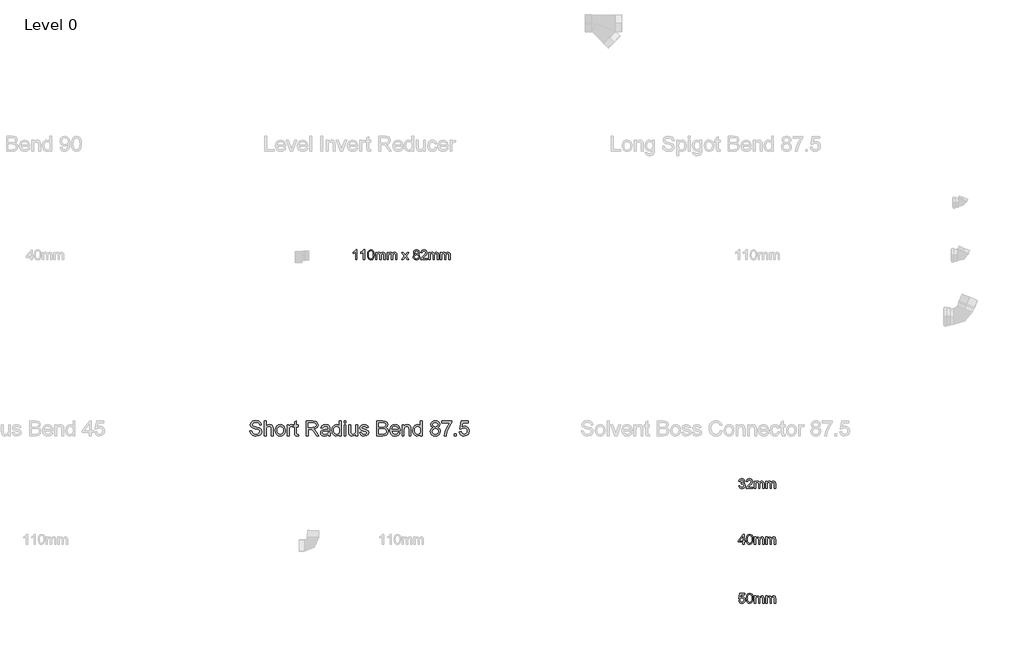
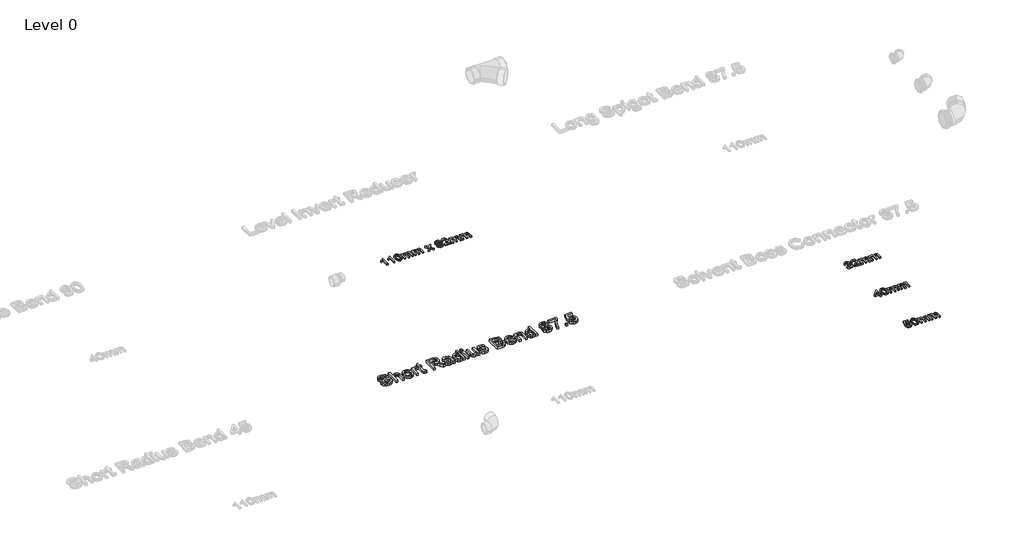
# One storey, part 3 of 28: 5 proxies.
"""IFC4 building model written with IfcOpenShell, lengths in millimetres."""

from ifc_helpers import new_model, si_unit, origin, origin_with_axes, place, context, project, spatial, polyline, outline, extrude, element, save

model = new_model("IFC4")

# Units and contexts
model_context = context("Model", 3, world=origin())
ifc_project = project(units=[si_unit("LENGTHUNIT", "METRE", prefix="MILLI")], contexts=[model_context])

# Site, building, storey
site = spatial("IfcSite", under=ifc_project)
building = spatial("IfcBuilding", under=site)
storey = spatial("IfcBuildingStorey", under=building, Name="Level 0", Elevation=0.0)

# Proxies
placement = place(None, origin())
element("IfcBuildingElementProxy", 1, Name="100mm Arial", ObjectType="100mm Arial", at=placement, inside=storey, context=model_context, shape_type="SweptSolid", body=[
    extrude(outline(polyline([(-17554.0370111, -162.2832696), (-17566.3447034, -162.2832696), (-17566.3447034, -85.5525004), (-17578.0033572, -93.8577889), (-17590.960088, -100.0717312), (-17590.960088, -88.4371158), (-17572.9192226, -76.9226927), (-17561.9697034, -63.8217312), (-17554.0370111, -63.8217312), (-17554.0370111, -162.2832696)])), origin_with_axes(), (0.0, 0.0, 1.0), 15.0),
    extrude(outline(polyline([(-17478.6523957, -162.2832696), (-17490.960088, -162.2832696), (-17490.960088, -85.5525004), (-17502.6187418, -93.8577889), (-17515.5754726, -100.0717312), (-17515.5754726, -88.4371158), (-17497.5346072, -76.9226927), (-17486.585088, -63.8217312), (-17478.6523957, -63.8217312), (-17478.6523957, -162.2832696)])), origin_with_axes(), (0.0, 0.0, 1.0), 15.0),
    extrude(outline(polyline([(-17449.4216264, -113.8457696), (-17445.803838, -85.5164427), (-17435.0586457, -69.1823081), (-17417.1139341, -63.8217312), (-17402.7389341, -66.9948081), (-17392.8110495, -76.1414427), (-17387.0418188, -90.7087504), (-17384.8062418, -113.8457696), (-17388.3879726, -142.0549042), (-17399.0971072, -158.4250965), (-17417.1139341, -163.8217312), (-17429.9023957, -161.4779812), (-17439.6139341, -154.4467312), (-17446.9697034, -137.7940869), (-17449.4216264, -113.8457696)]), holes=[polyline([(-17437.1139341, -113.8217312), (-17435.6716264, -133.1817071), (-17431.3447034, -144.386635), (-17424.9023957, -149.7321879), (-17417.1139341, -151.5140389), (-17409.3254726, -149.7261783), (-17402.8831649, -144.3625965), (-17398.5562418, -133.151659), (-17397.1139341, -113.8217312), (-17398.5081649, -94.8974523), (-17402.6908572, -83.605385), (-17409.1211457, -77.9984139), (-17417.2581649, -76.1294235), (-17424.9624918, -77.7760581), (-17431.1523957, -82.7159619), (-17435.6235495, -94.7111542), (-17437.1139341, -113.8217312)])]), origin_with_axes(), (0.0, 0.0, 1.0), 15.0),
    extrude(outline(polyline([(-17370.960088, -162.2832696), (-17370.960088, -89.9755773), (-17358.6523957, -89.9755773), (-17358.6523957, -101.8746158), (-17350.1908572, -92.1270196), (-17338.147588, -88.4371158), (-17325.8158572, -92.199135), (-17319.0370111, -102.7400004), (-17309.4336457, -92.0128369), (-17297.3062418, -88.4371158), (-17288.0544389, -89.9244956), (-17281.2124918, -94.386635), (-17276.9847274, -101.9437264), (-17275.5754726, -112.7159619), (-17275.5754726, -162.2832696), (-17287.8831649, -162.2832696), (-17287.8831649, -118.0044235), (-17289.0249918, -107.7279812), (-17293.1596072, -102.667885), (-17300.1908572, -100.7448081), (-17312.2942226, -105.6726927), (-17317.1139341, -121.4659619), (-17317.1139341, -162.2832696), (-17329.4216264, -162.2832696), (-17329.4216264, -116.6342312), (-17332.2701841, -104.7111542), (-17341.6091264, -100.7448081), (-17350.7197034, -103.3890389), (-17356.7773957, -111.1294235), (-17358.6523957, -125.8169235), (-17358.6523957, -162.2832696), (-17370.960088, -162.2832696)])), origin_with_axes(), (0.0, 0.0, 1.0), 15.0),
    extrude(outline(polyline([(-17257.1139341, -162.2832696), (-17257.1139341, -89.9755773), (-17244.8062418, -89.9755773), (-17244.8062418, -101.8746158), (-17236.3447034, -92.1270196), (-17224.3014341, -88.4371158), (-17211.9697034, -92.199135), (-17205.1908572, -102.7400004), (-17195.5874918, -92.0128369), (-17183.460088, -88.4371158), (-17174.2082851, -89.9244956), (-17167.366338, -94.386635), (-17163.1385736, -101.9437264), (-17161.7293188, -112.7159619), (-17161.7293188, -162.2832696), (-17174.0370111, -162.2832696), (-17174.0370111, -118.0044235), (-17175.178838, -107.7279812), (-17179.3134534, -102.667885), (-17186.3447034, -100.7448081), (-17198.4480688, -105.6726927), (-17203.2677803, -121.4659619), (-17203.2677803, -162.2832696), (-17215.5754726, -162.2832696), (-17215.5754726, -116.6342312), (-17218.4240303, -104.7111542), (-17227.7629726, -100.7448081), (-17236.8735495, -103.3890389), (-17242.9312418, -111.1294235), (-17244.8062418, -125.8169235), (-17244.8062418, -162.2832696), (-17257.1139341, -162.2832696)])), origin_with_axes(), (0.0, 0.0, 1.0), 15.0),
    extrude(outline(polyline([(-17112.4985495, -162.2832696), (-17086.2004726, -125.9371158), (-17110.960088, -89.9755773), (-17096.1523957, -89.9755773), (-17084.2052803, -107.2832696), (-17078.6283572, -115.4563465), (-17073.7966264, -108.7736542), (-17060.1908572, -89.9755773), (-17045.3831649, -89.9755773), (-17071.3927803, -125.9371158), (-17046.3447034, -162.2832696), (-17061.1523957, -162.2832696), (-17076.2245111, -140.4323081), (-17078.9889341, -136.4419235), (-17097.6908572, -162.2832696), (-17112.4985495, -162.2832696)])), origin_with_axes(), (0.0, 0.0, 1.0), 15.0),
    extrude(outline(polyline([(-16982.2581649, -108.0525004), (-16993.4721072, -100.4082696), (-16997.1139341, -88.5092312), (-16995.1307611, -78.8878369), (-16989.1812418, -70.9371158), (-16979.9324438, -65.6005773), (-16968.0514341, -63.8217312), (-16956.0983091, -65.6426446), (-16946.7293188, -71.105385), (-16940.6716264, -79.1823081), (-16938.6523957, -88.8457696), (-16942.2461457, -100.4443273), (-16953.147588, -108.0525004), (-16940.0586457, -117.7039427), (-16935.5754726, -133.6294235), (-16937.7990303, -145.3962504), (-16944.4697034, -155.1198081), (-16954.7701841, -161.6462504), (-16967.8831649, -163.8217312), (-16980.9961457, -161.637236), (-16991.2966264, -155.0837504), (-16997.9672995, -145.2670437), (-17000.1908572, -133.292885), (-16995.5273957, -116.9948081), (-16982.2581649, -108.0525004)]), holes=[polyline([(-16987.8831649, -132.8601927), (-16985.8278764, -142.1270196), (-16978.5562418, -149.0621158), (-16967.7870111, -151.5140389), (-16953.1235495, -146.3577889), (-16947.8831649, -133.2448081), (-16953.2918188, -119.8794235), (-16959.7221072, -115.9130773), (-16968.1956649, -114.5909619), (-16982.678838, -119.8073081), (-16987.8831649, -132.8601927)]), polyline([(-16984.8062418, -88.8698081), (-16980.4432611, -98.5332696), (-16967.7389341, -102.2832696), (-16955.2870111, -98.5573081), (-16950.960088, -89.4226927), (-16955.4312418, -79.9635581), (-16967.8831649, -76.1294235), (-16980.3711457, -79.8794235), (-16984.8062418, -88.8698081)])]), origin_with_axes(), (0.0, 0.0, 1.0), 15.0),
    extrude(outline(polyline([(-16861.7293188, -149.9755773), (-16861.7293188, -162.2832696), (-16926.3447034, -162.2832696), (-16925.022588, -153.7976927), (-16917.5466264, -140.7327889), (-16902.1379726, -126.4659619), (-16880.8879726, -105.9611542), (-16875.5754726, -92.0188465), (-16880.5874918, -80.7327889), (-16893.6764341, -76.1294235), (-16907.3182611, -80.6246158), (-16912.4985495, -93.0525004), (-16924.8062418, -91.5140389), (-16921.8224678, -79.6089908), (-16915.3711457, -70.9130773), (-16905.7888139, -65.5945677), (-16893.4120111, -63.8217312), (-16880.9450639, -65.792885), (-16871.3807611, -71.7063465), (-16865.2960255, -80.5404812), (-16863.2677803, -91.2736542), (-16865.4552803, -102.9443273), (-16872.7269149, -115.011635), (-16890.3591264, -131.8746158), (-16904.5177803, -143.7135581), (-16910.0706649, -149.9755773), (-16861.7293188, -149.9755773)])), origin_with_axes(), (0.0, 0.0, 1.0), 15.0),
    extrude(outline(polyline([(-16846.3447034, -162.2832696), (-16846.3447034, -89.9755773), (-16834.0370111, -89.9755773), (-16834.0370111, -101.8746158), (-16825.5754726, -92.1270196), (-16813.5322034, -88.4371158), (-16801.2004726, -92.199135), (-16794.4216264, -102.7400004), (-16784.8182611, -92.0128369), (-16772.6908572, -88.4371158), (-16763.4390543, -89.9244956), (-16756.5971072, -94.386635), (-16752.3693428, -101.9437264), (-16750.960088, -112.7159619), (-16750.960088, -162.2832696), (-16763.2677803, -162.2832696), (-16763.2677803, -118.0044235), (-16764.4096072, -107.7279812), (-16768.5442226, -102.667885), (-16775.5754726, -100.7448081), (-16787.678838, -105.6726927), (-16792.4985495, -121.4659619), (-16792.4985495, -162.2832696), (-16804.8062418, -162.2832696), (-16804.8062418, -116.6342312), (-16807.6547995, -104.7111542), (-16816.9937418, -100.7448081), (-16826.1043188, -103.3890389), (-16832.1620111, -111.1294235), (-16834.0370111, -125.8169235), (-16834.0370111, -162.2832696), (-16846.3447034, -162.2832696)])), origin_with_axes(), (0.0, 0.0, 1.0), 15.0),
    extrude(outline(polyline([(-16732.4985495, -162.2832696), (-16732.4985495, -89.9755773), (-16720.1908572, -89.9755773), (-16720.1908572, -101.8746158), (-16711.7293188, -92.1270196), (-16699.6860495, -88.4371158), (-16687.3543188, -92.199135), (-16680.5754726, -102.7400004), (-16670.9721072, -92.0128369), (-16658.8447034, -88.4371158), (-16649.5929005, -89.9244956), (-16642.7509534, -94.386635), (-16638.5231889, -101.9437264), (-16637.1139341, -112.7159619), (-16637.1139341, -162.2832696), (-16649.4216264, -162.2832696), (-16649.4216264, -118.0044235), (-16650.5634534, -107.7279812), (-16654.6980688, -102.667885), (-16661.7293188, -100.7448081), (-16673.8326841, -105.6726927), (-16678.6523957, -121.4659619), (-16678.6523957, -162.2832696), (-16690.960088, -162.2832696), (-16690.960088, -116.6342312), (-16693.8086457, -104.7111542), (-16703.147588, -100.7448081), (-16712.2581649, -103.3890389), (-16718.3158572, -111.1294235), (-16720.1908572, -125.8169235), (-16720.1908572, -162.2832696), (-16732.4985495, -162.2832696)])), origin_with_axes(), (0.0, 0.0, 1.0), 15.0),
])
element("IfcBuildingElementProxy", 2, Name="100mm Arial", ObjectType="100mm Arial", at=placement, inside=storey, context=model_context, shape_type="SweptSolid", body=[
    extrude(outline(polyline([(-13800.1908572, -2387.195749), (-13787.8831649, -2385.6572875), (-13781.0922995, -2398.6140183), (-13768.3879726, -2402.5803644), (-13759.9504726, -2401.2161817), (-13753.4360495, -2397.1236337), (-13747.8831649, -2383.6140183), (-13753.3879726, -2370.8856529), (-13767.3783572, -2365.8495952), (-13776.0081649, -2367.195749), (-13774.6379726, -2354.8880567), (-13772.6668188, -2355.0322875), (-13758.7004726, -2351.4986337), (-13754.0490303, -2347.0154606), (-13752.4985495, -2340.633249), (-13756.9937418, -2331.0058452), (-13768.5802803, -2327.195749), (-13780.3110495, -2331.0419029), (-13786.3447034, -2342.5803644), (-13798.6523957, -2341.0419029), (-13795.0285976, -2329.9902202), (-13788.5802803, -2321.7390183), (-13779.7581649, -2316.6007971), (-13769.0129726, -2314.8880567), (-13754.1692226, -2318.2654606), (-13743.7846072, -2327.4962298), (-13740.1908572, -2339.9120952), (-13743.6043188, -2351.258249), (-13753.7004726, -2359.4072875), (-13740.2870111, -2367.820749), (-13735.5754726, -2383.8303644), (-13737.9312418, -2395.8255567), (-13744.9985495, -2405.8495952), (-13755.6656168, -2412.6284413), (-13768.8206649, -2414.8880567), (-13780.7197034, -2412.9589702), (-13790.4072034, -2407.1717106), (-13797.1439822, -2398.3195471), (-13800.1908572, -2387.195749)])), origin_with_axes(), (0.0, 0.0, 1.0), 15.0),
    extrude(outline(polyline([(-13661.7293188, -2401.0419029), (-13661.7293188, -2413.3495952), (-13726.3447034, -2413.3495952), (-13725.022588, -2404.8640183), (-13717.5466264, -2391.7991144), (-13702.1379726, -2377.5322875), (-13680.8879726, -2357.0274798), (-13675.5754726, -2343.0851721), (-13680.5874918, -2331.7991144), (-13693.6764341, -2327.195749), (-13707.3182611, -2331.6909413), (-13712.4985495, -2344.118826), (-13724.8062418, -2342.5803644), (-13721.8224678, -2330.6753163), (-13715.3711457, -2321.9794029), (-13705.7888139, -2316.6608933), (-13693.4120111, -2314.8880567), (-13680.9450639, -2316.8592106), (-13671.3807611, -2322.7726721), (-13665.2960255, -2331.6068067), (-13663.2677803, -2342.3399798), (-13665.4552803, -2354.0106529), (-13672.7269149, -2366.0779606), (-13690.3591264, -2382.9409413), (-13704.5177803, -2394.7798837), (-13710.0706649, -2401.0419029), (-13661.7293188, -2401.0419029)])), origin_with_axes(), (0.0, 0.0, 1.0), 15.0),
    extrude(outline(polyline([(-13646.3447034, -2413.3495952), (-13646.3447034, -2341.0419029), (-13634.0370111, -2341.0419029), (-13634.0370111, -2352.9409413), (-13625.5754726, -2343.1933452), (-13613.5322034, -2339.5034413), (-13601.2004726, -2343.2654606), (-13594.4216264, -2353.806326), (-13584.8182611, -2343.0791625), (-13572.6908572, -2339.5034413), (-13563.4390543, -2340.9908212), (-13556.5971072, -2345.4529606), (-13552.3693428, -2353.0100519), (-13550.960088, -2363.7822875), (-13550.960088, -2413.3495952), (-13563.2677803, -2413.3495952), (-13563.2677803, -2369.070749), (-13564.4096072, -2358.7943067), (-13568.5442226, -2353.7342106), (-13575.5754726, -2351.8111337), (-13587.678838, -2356.7390183), (-13592.4985495, -2372.5322875), (-13592.4985495, -2413.3495952), (-13604.8062418, -2413.3495952), (-13604.8062418, -2367.7005567), (-13607.6547995, -2355.7774798), (-13616.9937418, -2351.8111337), (-13626.1043188, -2354.4553644), (-13632.1620111, -2362.195749), (-13634.0370111, -2376.883249), (-13634.0370111, -2413.3495952), (-13646.3447034, -2413.3495952)])), origin_with_axes(), (0.0, 0.0, 1.0), 15.0),
    extrude(outline(polyline([(-13532.4985495, -2413.3495952), (-13532.4985495, -2341.0419029), (-13520.1908572, -2341.0419029), (-13520.1908572, -2352.9409413), (-13511.7293188, -2343.1933452), (-13499.6860495, -2339.5034413), (-13487.3543188, -2343.2654606), (-13480.5754726, -2353.806326), (-13470.9721072, -2343.0791625), (-13458.8447034, -2339.5034413), (-13449.5929005, -2340.9908212), (-13442.7509534, -2345.4529606), (-13438.5231889, -2353.0100519), (-13437.1139341, -2363.7822875), (-13437.1139341, -2413.3495952), (-13449.4216264, -2413.3495952), (-13449.4216264, -2369.070749), (-13450.5634534, -2358.7943067), (-13454.6980688, -2353.7342106), (-13461.7293188, -2351.8111337), (-13473.8326841, -2356.7390183), (-13478.6523957, -2372.5322875), (-13478.6523957, -2413.3495952), (-13490.960088, -2413.3495952), (-13490.960088, -2367.7005567), (-13493.8086457, -2355.7774798), (-13503.147588, -2351.8111337), (-13512.2581649, -2354.4553644), (-13518.3158572, -2362.195749), (-13520.1908572, -2376.883249), (-13520.1908572, -2413.3495952), (-13532.4985495, -2413.3495952)])), origin_with_axes(), (0.0, 0.0, 1.0), 15.0),
])
element("IfcBuildingElementProxy", 3, Name="100mm Arial", ObjectType="100mm Arial", at=placement, inside=storey, context=model_context, shape_type="SweptSolid", body=[
    extrude(outline(polyline([(-13760.1908572, -2962.2832696), (-13760.1908572, -2939.2063465), (-13804.8062418, -2939.2063465), (-13804.8062418, -2926.8986542), (-13757.1139341, -2865.3601927), (-13747.8831649, -2865.3601927), (-13747.8831649, -2926.8986542), (-13735.5754726, -2926.8986542), (-13735.5754726, -2939.2063465), (-13747.8831649, -2939.2063465), (-13747.8831649, -2962.2832696), (-13760.1908572, -2962.2832696)]), holes=[polyline([(-13760.1908572, -2926.8986542), (-13760.1908572, -2888.8698081), (-13789.6620111, -2926.8986542), (-13760.1908572, -2926.8986542)])]), origin_with_axes(), (0.0, 0.0, 1.0), 15.0),
    extrude(outline(polyline([(-13724.8062418, -2913.8457696), (-13721.1884534, -2885.5164427), (-13710.4432611, -2869.1823081), (-13692.4985495, -2863.8217312), (-13678.1235495, -2866.9948081), (-13668.1956649, -2876.1414427), (-13662.4264341, -2890.7087504), (-13660.1908572, -2913.8457696), (-13663.772588, -2942.0549042), (-13674.4817226, -2958.4250965), (-13692.4985495, -2963.8217312), (-13705.2870111, -2961.4779812), (-13714.9985495, -2954.4467312), (-13722.3543188, -2937.7940869), (-13724.8062418, -2913.8457696)]), holes=[polyline([(-13712.4985495, -2913.8217312), (-13711.0562418, -2933.1817071), (-13706.7293188, -2944.386635), (-13700.2870111, -2949.7321879), (-13692.4985495, -2951.5140389), (-13684.710088, -2949.7261783), (-13678.2677803, -2944.3625965), (-13673.9408572, -2933.151659), (-13672.4985495, -2913.8217312), (-13673.8927803, -2894.8974523), (-13678.0754726, -2883.605385), (-13684.5057611, -2877.9984139), (-13692.6427803, -2876.1294235), (-13700.3471072, -2877.7760581), (-13706.5370111, -2882.7159619), (-13711.0081649, -2894.7111542), (-13712.4985495, -2913.8217312)])]), origin_with_axes(), (0.0, 0.0, 1.0), 15.0),
    extrude(outline(polyline([(-13646.3447034, -2962.2832696), (-13646.3447034, -2889.9755773), (-13634.0370111, -2889.9755773), (-13634.0370111, -2901.8746158), (-13625.5754726, -2892.1270196), (-13613.5322034, -2888.4371158), (-13601.2004726, -2892.199135), (-13594.4216264, -2902.7400004), (-13584.8182611, -2892.0128369), (-13572.6908572, -2888.4371158), (-13563.4390543, -2889.9244956), (-13556.5971072, -2894.386635), (-13552.3693428, -2901.9437264), (-13550.960088, -2912.7159619), (-13550.960088, -2962.2832696), (-13563.2677803, -2962.2832696), (-13563.2677803, -2918.0044235), (-13564.4096072, -2907.7279812), (-13568.5442226, -2902.667885), (-13575.5754726, -2900.7448081), (-13587.678838, -2905.6726927), (-13592.4985495, -2921.4659619), (-13592.4985495, -2962.2832696), (-13604.8062418, -2962.2832696), (-13604.8062418, -2916.6342312), (-13607.6547995, -2904.7111542), (-13616.9937418, -2900.7448081), (-13626.1043188, -2903.3890389), (-13632.1620111, -2911.1294235), (-13634.0370111, -2925.8169235), (-13634.0370111, -2962.2832696), (-13646.3447034, -2962.2832696)])), origin_with_axes(), (0.0, 0.0, 1.0), 15.0),
    extrude(outline(polyline([(-13532.4985495, -2962.2832696), (-13532.4985495, -2889.9755773), (-13520.1908572, -2889.9755773), (-13520.1908572, -2901.8746158), (-13511.7293188, -2892.1270196), (-13499.6860495, -2888.4371158), (-13487.3543188, -2892.199135), (-13480.5754726, -2902.7400004), (-13470.9721072, -2892.0128369), (-13458.8447034, -2888.4371158), (-13449.5929005, -2889.9244956), (-13442.7509534, -2894.386635), (-13438.5231889, -2901.9437264), (-13437.1139341, -2912.7159619), (-13437.1139341, -2962.2832696), (-13449.4216264, -2962.2832696), (-13449.4216264, -2918.0044235), (-13450.5634534, -2907.7279812), (-13454.6980688, -2902.667885), (-13461.7293188, -2900.7448081), (-13473.8326841, -2905.6726927), (-13478.6523957, -2921.4659619), (-13478.6523957, -2962.2832696), (-13490.960088, -2962.2832696), (-13490.960088, -2916.6342312), (-13493.8086457, -2904.7111542), (-13503.147588, -2900.7448081), (-13512.2581649, -2903.3890389), (-13518.3158572, -2911.1294235), (-13520.1908572, -2925.8169235), (-13520.1908572, -2962.2832696), (-13532.4985495, -2962.2832696)])), origin_with_axes(), (0.0, 0.0, 1.0), 15.0),
])
element("IfcBuildingElementProxy", 4, Name="100mm Arial", ObjectType="100mm Arial", at=placement, inside=storey, context=model_context, shape_type="SweptSolid", body=[
    extrude(outline(polyline([(-13800.1908572, -3516.1294235), (-13787.8831649, -3514.5909619), (-13781.6812418, -3527.2712504), (-13768.8206649, -3531.5140389), (-13759.9985495, -3530.0386783), (-13753.3879726, -3525.6125965), (-13749.2593668, -3518.746611), (-13747.8831649, -3509.9515389), (-13753.0394149, -3495.3361542), (-13759.5147755, -3491.3157215), (-13768.6283572, -3489.9755773), (-13779.4336457, -3492.1150004), (-13786.3447034, -3497.667885), (-13798.6523957, -3496.1294235), (-13787.8831649, -3445.3601927), (-13740.1908572, -3445.3601927), (-13740.1908572, -3457.667885), (-13777.9312418, -3457.667885), (-13783.1956649, -3484.7832696), (-13774.4035976, -3479.4467312), (-13765.1908572, -3477.667885), (-13753.6914582, -3479.8734139), (-13744.1451841, -3486.4900004), (-13737.7179005, -3496.574135), (-13735.5754726, -3509.1823081), (-13737.5045591, -3521.4900004), (-13743.2918188, -3532.0188465), (-13754.3735495, -3540.87101), (-13768.8687418, -3543.8217312), (-13780.9570832, -3541.9256975), (-13790.5874918, -3536.2375965), (-13797.1890543, -3527.418486), (-13800.1908572, -3516.1294235)])), origin_with_axes(), (0.0, 0.0, 1.0), 15.0),
    extrude(outline(polyline([(-13724.8062418, -3493.8457696), (-13721.1884534, -3465.5164427), (-13710.4432611, -3449.1823081), (-13692.4985495, -3443.8217312), (-13678.1235495, -3446.9948081), (-13668.1956649, -3456.1414427), (-13662.4264341, -3470.7087504), (-13660.1908572, -3493.8457696), (-13663.772588, -3522.0549042), (-13674.4817226, -3538.4250965), (-13692.4985495, -3543.8217312), (-13705.2870111, -3541.4779812), (-13714.9985495, -3534.4467312), (-13722.3543188, -3517.7940869), (-13724.8062418, -3493.8457696)]), holes=[polyline([(-13712.4985495, -3493.8217312), (-13711.0562418, -3513.1817071), (-13706.7293188, -3524.386635), (-13700.2870111, -3529.7321879), (-13692.4985495, -3531.5140389), (-13684.710088, -3529.7261783), (-13678.2677803, -3524.3625965), (-13673.9408572, -3513.151659), (-13672.4985495, -3493.8217312), (-13673.8927803, -3474.8974523), (-13678.0754726, -3463.605385), (-13684.5057611, -3457.9984139), (-13692.6427803, -3456.1294235), (-13700.3471072, -3457.7760581), (-13706.5370111, -3462.7159619), (-13711.0081649, -3474.7111542), (-13712.4985495, -3493.8217312)])]), origin_with_axes(), (0.0, 0.0, 1.0), 15.0),
    extrude(outline(polyline([(-13646.3447034, -3542.2832696), (-13646.3447034, -3469.9755773), (-13634.0370111, -3469.9755773), (-13634.0370111, -3481.8746158), (-13625.5754726, -3472.1270196), (-13613.5322034, -3468.4371158), (-13601.2004726, -3472.199135), (-13594.4216264, -3482.7400004), (-13584.8182611, -3472.0128369), (-13572.6908572, -3468.4371158), (-13563.4390543, -3469.9244956), (-13556.5971072, -3474.386635), (-13552.3693428, -3481.9437264), (-13550.960088, -3492.7159619), (-13550.960088, -3542.2832696), (-13563.2677803, -3542.2832696), (-13563.2677803, -3498.0044235), (-13564.4096072, -3487.7279812), (-13568.5442226, -3482.667885), (-13575.5754726, -3480.7448081), (-13587.678838, -3485.6726927), (-13592.4985495, -3501.4659619), (-13592.4985495, -3542.2832696), (-13604.8062418, -3542.2832696), (-13604.8062418, -3496.6342312), (-13607.6547995, -3484.7111542), (-13616.9937418, -3480.7448081), (-13626.1043188, -3483.3890389), (-13632.1620111, -3491.1294235), (-13634.0370111, -3505.8169235), (-13634.0370111, -3542.2832696), (-13646.3447034, -3542.2832696)])), origin_with_axes(), (0.0, 0.0, 1.0), 15.0),
    extrude(outline(polyline([(-13532.4985495, -3542.2832696), (-13532.4985495, -3469.9755773), (-13520.1908572, -3469.9755773), (-13520.1908572, -3481.8746158), (-13511.7293188, -3472.1270196), (-13499.6860495, -3468.4371158), (-13487.3543188, -3472.199135), (-13480.5754726, -3482.7400004), (-13470.9721072, -3472.0128369), (-13458.8447034, -3468.4371158), (-13449.5929005, -3469.9244956), (-13442.7509534, -3474.386635), (-13438.5231889, -3481.9437264), (-13437.1139341, -3492.7159619), (-13437.1139341, -3542.2832696), (-13449.4216264, -3542.2832696), (-13449.4216264, -3498.0044235), (-13450.5634534, -3487.7279812), (-13454.6980688, -3482.667885), (-13461.7293188, -3480.7448081), (-13473.8326841, -3485.6726927), (-13478.6523957, -3501.4659619), (-13478.6523957, -3542.2832696), (-13490.960088, -3542.2832696), (-13490.960088, -3496.6342312), (-13493.8086457, -3484.7111542), (-13503.147588, -3480.7448081), (-13512.2581649, -3483.3890389), (-13518.3158572, -3491.1294235), (-13520.1908572, -3505.8169235), (-13520.1908572, -3542.2832696), (-13532.4985495, -3542.2832696)])), origin_with_axes(), (0.0, 0.0, 1.0), 15.0),
])
element("IfcBuildingElementProxy", 5, Name="150mm Arial", ObjectType="150mm Arial", at=placement, inside=storey, context=model_context, shape_type="SweptSolid", body=[
    extrude(outline(polyline([(-18605.6049127, -1844.0162473), (-18587.1433743, -1844.0162473), (-18581.193855, -1862.4958146), (-18566.662605, -1874.1785069), (-18544.523182, -1878.6316319), (-18525.2323166, -1875.2602377), (-18512.7743839, -1865.9934108), (-18508.6818358, -1853.6075935), (-18511.7467397, -1842.0871608), (-18524.2948166, -1833.7037473), (-18551.1758262, -1826.6544685), (-18580.1121243, -1817.5499012), (-18595.8152493, -1803.8119204), (-18600.9895281, -1785.458555), (-18599.389468, -1774.6457545), (-18594.5892877, -1764.5631223), (-18586.7151892, -1756.0174492), (-18575.8933743, -1749.8155262), (-18548.5255858, -1744.7854781), (-18519.318855, -1750.0499012), (-18508.1229416, -1756.5493002), (-18499.8477012, -1765.5186512), (-18494.6103214, -1776.3990598), (-18492.5279897, -1788.6316319), (-18510.9895281, -1788.6316319), (-18514.3789512, -1777.6160069), (-18521.4462589, -1769.6652858), (-18532.4889272, -1764.8515839), (-18547.804432, -1763.2470165), (-18563.4805137, -1764.833555), (-18574.2347204, -1769.5931704), (-18580.4546723, -1776.5973771), (-18582.5279897, -1784.9176896), (-18581.0586387, -1792.0120406), (-18576.6505858, -1797.7181704), (-18546.506355, -1808.0306704), (-18513.8380858, -1817.2974973), (-18503.3137469, -1823.9952137), (-18495.9714993, -1832.2614396), (-18490.2202973, -1853.1388435), (-18491.874444, -1864.5195526), (-18496.8368839, -1875.22418), (-18504.9047925, -1884.4369204), (-18515.8753454, -1891.3419685), (-18543.8020281, -1897.0931704), (-18561.889468, -1895.5426896), (-18576.7767877, -1890.8912473), (-18588.6352613, -1883.1208146), (-18597.6361627, -1872.2133627), (-18603.4144079, -1858.9261031), (-18605.6049127, -1844.0162473)])), origin_with_axes(), (0.0, 0.0, 1.0), 25.0),
    extrude(outline(polyline([(-18464.835682, -1894.7854781), (-18464.835682, -1747.0931704), (-18446.3741435, -1747.0931704), (-18446.3741435, -1801.396055), (-18431.9781098, -1788.3611992), (-18414.2467397, -1784.0162473), (-18393.5135666, -1788.7578339), (-18380.929432, -1801.864805), (-18377.1433743, -1826.1316319), (-18377.1433743, -1894.7854781), (-18395.6049127, -1894.7854781), (-18395.6049127, -1828.0426896), (-18397.0742637, -1816.4861992), (-18401.4823166, -1808.5715358), (-18408.585682, -1804.0012233), (-18418.1409704, -1802.4777858), (-18433.2671723, -1806.5883627), (-18443.3633262, -1817.7301896), (-18446.3741435, -1837.1652858), (-18446.3741435, -1894.7854781), (-18464.835682, -1894.7854781)])), origin_with_axes(), (0.0, 0.0, 1.0), 25.0),
    extrude(outline(polyline([(-18356.3741435, -1840.5547089), (-18352.3807541, -1814.4038675), (-18340.4005858, -1796.0234589), (-18325.5989031, -1787.0180502), (-18307.8765473, -1784.0162473), (-18288.4820161, -1787.6715959), (-18272.99073, -1798.6376415), (-18262.8359824, -1816.0489997), (-18259.4510666, -1839.0402858), (-18260.9474608, -1857.6911271), (-18265.4366435, -1871.8888435), (-18272.7879055, -1882.5213555), (-18282.8705377, -1890.4765839), (-18294.8461988, -1895.4390238), (-18307.8765473, -1897.0931704), (-18327.5054536, -1893.4513435), (-18342.9787108, -1882.5258627), (-18353.0252853, -1864.7494204), (-18356.3741435, -1840.5547089)]), holes=[polyline([(-18337.912605, -1840.5186512), (-18335.7761868, -1857.2268843), (-18329.366932, -1869.13043), (-18319.7214993, -1876.2563314), (-18307.8765473, -1878.6316319), (-18296.085682, -1876.2428098), (-18286.4582781, -1869.0763435), (-18280.0490233, -1857.0150454), (-18277.912605, -1839.9417281), (-18280.0625449, -1823.7202738), (-18286.5123647, -1811.9789877), (-18296.1532901, -1804.8530863), (-18307.8765473, -1802.4777858), (-18319.7214993, -1804.8440718), (-18329.366932, -1811.94293), (-18335.7761868, -1823.8194324), (-18337.912605, -1840.5186512)])]), origin_with_axes(), (0.0, 0.0, 1.0), 25.0),
    extrude(outline(polyline([(-18238.6818358, -1894.7854781), (-18238.6818358, -1786.3239396), (-18222.5279897, -1786.3239396), (-18222.5279897, -1802.3696127), (-18211.0616435, -1787.5859589), (-18199.523182, -1784.0162473), (-18180.9895281, -1789.7133627), (-18187.1553935, -1806.2638435), (-18200.1361627, -1802.4777858), (-18210.5748647, -1806.1196127), (-18217.2275089, -1816.2157665), (-18220.2202973, -1837.7782665), (-18220.2202973, -1894.7854781), (-18238.6818358, -1894.7854781)])), origin_with_axes(), (0.0, 0.0, 1.0), 25.0),
    extrude(outline(polyline([(-18130.2202973, -1879.3888435), (-18127.912605, -1895.3263435), (-18141.7227012, -1897.0931704), (-18157.1914512, -1894.0282665), (-18164.9077973, -1885.9874012), (-18167.1433743, -1865.0378819), (-18167.1433743, -1804.7854781), (-18180.9895281, -1804.7854781), (-18180.9895281, -1786.3239396), (-18167.1433743, -1786.3239396), (-18167.1433743, -1759.9657665), (-18148.6818358, -1749.1124012), (-18148.6818358, -1786.3239396), (-18130.2202973, -1786.3239396), (-18130.2202973, -1804.7854781), (-18148.6818358, -1804.7854781), (-18148.6818358, -1864.4970165), (-18147.7082781, -1874.0162473), (-18144.55323, -1877.3876415), (-18138.2611627, -1878.6316319), (-18130.2202973, -1879.3888435)])), origin_with_axes(), (0.0, 0.0, 1.0), 25.0),
    extrude(outline(polyline([(-18051.7587589, -1894.7854781), (-18051.7587589, -1747.0931704), (-17988.116932, -1747.0931704), (-17958.5676531, -1751.0775454), (-17949.4721002, -1756.5943723), (-17942.413807, -1765.1761031), (-17937.8840594, -1775.8176295), (-17936.3741435, -1787.5138435), (-17938.8756459, -1802.0631223), (-17946.3801531, -1814.1244204), (-17959.1130257, -1822.9675694), (-17977.2996243, -1827.8624012), (-17966.8068358, -1835.7590358), (-17951.8428935, -1854.7614396), (-17927.2154897, -1894.7854781), (-17948.6698166, -1894.7854781), (-17967.8885666, -1864.1724973), (-17981.7707781, -1843.9080742), (-17991.5243839, -1834.3347569), (-18000.304432, -1830.8191319), (-18011.0135666, -1830.1700935), (-18033.2972204, -1830.1700935), (-18033.2972204, -1894.7854781), (-18051.7587589, -1894.7854781)]), holes=[polyline([(-18033.2972204, -1811.708555), (-17991.975105, -1811.708555), (-17970.8993839, -1809.0943723), (-17958.92823, -1800.7289877), (-17954.835682, -1788.1989396), (-17956.7873046, -1779.193531), (-17962.6421723, -1771.9369204), (-17972.7157901, -1767.1502617), (-17987.3236627, -1765.5547089), (-18033.2972204, -1765.5547089), (-18033.2972204, -1811.708555)])]), origin_with_axes(), (0.0, 0.0, 1.0), 25.0),
    extrude(outline(polyline([(-17837.1433743, -1880.9393242), (-17855.0460185, -1893.4513435), (-17874.8236627, -1897.0931704), (-17890.2518478, -1894.9026656), (-17901.632557, -1888.3311512), (-17908.6502853, -1878.3521848), (-17910.9895281, -1865.9393242), (-17907.4558743, -1851.3359589), (-17898.1710185, -1840.7349973), (-17885.2443358, -1834.677305), (-17869.2707781, -1831.9008627), (-17837.2515473, -1825.5547089), (-17837.1433743, -1821.4441319), (-17838.4144079, -1813.2049492), (-17842.2275089, -1807.8143242), (-17850.7551531, -1803.8119204), (-17862.6361627, -1802.4777858), (-17881.3140473, -1806.0294685), (-17890.2202973, -1818.6316319), (-17908.6818358, -1816.3239396), (-17900.695057, -1798.2950935), (-17884.6133262, -1787.7301896), (-17860.256355, -1784.0162473), (-17837.882557, -1787.2974973), (-17825.2443358, -1795.53668), (-17819.5832781, -1808.0667281), (-17818.6818358, -1824.2205742), (-17818.6818358, -1847.1893242), (-17817.7443358, -1879.2626415), (-17814.0664512, -1894.7854781), (-17832.5279897, -1894.7854781), (-17837.1433743, -1880.9393242)]), holes=[polyline([(-17837.1433743, -1844.0162473), (-17866.9270281, -1849.677305), (-17882.8104416, -1852.6700935), (-17890.0039512, -1857.5378819), (-17892.5279897, -1864.6412473), (-17887.0291916, -1874.6292281), (-17870.8933743, -1878.6316319), (-17852.2154897, -1874.2145646), (-17840.1722204, -1863.5234589), (-17837.2515473, -1849.2446127), (-17837.1433743, -1844.0162473)])]), origin_with_axes(), (0.0, 0.0, 1.0), 25.0),
    extrude(outline(polyline([(-17726.3741435, -1894.7854781), (-17726.3741435, -1877.3696127), (-17738.5886868, -1892.162281), (-17755.4727012, -1897.0931704), (-17767.4077973, -1895.3083146), (-17778.3332781, -1889.9537473), (-17787.5820762, -1881.403567), (-17794.4871243, -1870.0318723), (-17798.7870041, -1856.2983988), (-17800.2202973, -1840.6628819), (-17794.9378454, -1811.2758627), (-17788.3392877, -1799.6202137), (-17779.1085185, -1791.0474973), (-17767.9441555, -1785.7740598), (-17755.5448166, -1784.0162473), (-17738.5255858, -1789.0462954), (-17726.3741435, -1802.1172089), (-17726.3741435, -1747.0931704), (-17707.912605, -1747.0931704), (-17707.912605, -1894.7854781), (-17726.3741435, -1894.7854781)]), holes=[polyline([(-17781.7587589, -1840.5907665), (-17779.6764272, -1857.2899853), (-17773.429432, -1869.1664877), (-17764.3519079, -1876.2653459), (-17753.7779897, -1878.6316319), (-17743.2085786, -1876.3735189), (-17734.3609223, -1869.59918), (-17728.3708382, -1858.1824132), (-17726.3741435, -1841.9970165), (-17728.4068959, -1824.301704), (-17734.5051531, -1812.0330742), (-17743.5781699, -1804.8666079), (-17754.5352012, -1802.4777858), (-17765.2172925, -1804.7719564), (-17773.9702973, -1811.6544685), (-17779.8116435, -1823.4768843), (-17781.7587589, -1840.5907665)])]), origin_with_axes(), (0.0, 0.0, 1.0), 25.0),
    extrude(outline(polyline([(-17680.2202973, -1765.5547089), (-17680.2202973, -1747.0931704), (-17661.7587589, -1747.0931704), (-17661.7587589, -1765.5547089), (-17680.2202973, -1765.5547089)])), origin_with_axes(), (0.0, 0.0, 1.0), 25.0),
    extrude(outline(polyline([(-17680.2202973, -1894.7854781), (-17680.2202973, -1786.3239396), (-17661.7587589, -1786.3239396), (-17661.7587589, -1894.7854781), (-17680.2202973, -1894.7854781)])), origin_with_axes(), (0.0, 0.0, 1.0), 25.0),
    extrude(outline(polyline([(-17564.835682, -1894.7854781), (-17564.835682, -1876.1436512), (-17579.2948166, -1891.8557906), (-17598.1529897, -1897.0931704), (-17615.5147685, -1893.4152858), (-17627.4859223, -1884.1845165), (-17632.9847204, -1870.5907665), (-17634.0664512, -1853.427305), (-17634.0664512, -1786.3239396), (-17615.6049127, -1786.3239396), (-17615.6049127, -1844.7374012), (-17614.4871243, -1863.5595165), (-17607.1854416, -1874.6111992), (-17593.429432, -1878.6316319), (-17578.0147685, -1874.521055), (-17567.8284704, -1863.3251415), (-17564.835682, -1842.7542281), (-17564.835682, -1786.3239396), (-17546.3741435, -1786.3239396), (-17546.3741435, -1894.7854781), (-17564.835682, -1894.7854781)])), origin_with_axes(), (0.0, 0.0, 1.0), 25.0),
    extrude(outline(polyline([(-17527.912605, -1862.4777858), (-17509.4510666, -1860.1700935), (-17506.5394079, -1868.0667281), (-17500.9053935, -1873.8720165), (-17481.3260666, -1878.6316319), (-17462.5039512, -1874.2686512), (-17456.3741435, -1864.0282665), (-17462.5400089, -1855.7349973), (-17481.5424127, -1850.4705742), (-17509.3428935, -1841.4381223), (-17521.476307, -1830.8912473), (-17525.6049127, -1815.9994204), (-17522.287605, -1802.2434108), (-17513.2371243, -1791.7325935), (-17501.5003454, -1786.2698531), (-17485.616932, -1784.0162473), (-17463.1529897, -1787.6400454), (-17448.8741435, -1797.4477377), (-17442.5279897, -1814.0162473), (-17460.9895281, -1816.3239396), (-17467.9306339, -1806.1376415), (-17484.1746243, -1802.4777858), (-17501.8428935, -1805.9753819), (-17507.1433743, -1814.1244204), (-17504.943855, -1819.4970165), (-17498.0568358, -1823.5715358), (-17482.1553935, -1827.5018242), (-17455.0580377, -1836.1917281), (-17442.4739031, -1846.0354781), (-17437.912605, -1862.0811512), (-17443.2671723, -1879.7494204), (-17458.7178935, -1892.56793), (-17481.5784704, -1897.0931704), (-17500.1932541, -1894.91168), (-17513.7779897, -1888.3672089), (-17522.8464993, -1877.5318723), (-17527.912605, -1862.4777858)])), origin_with_axes(), (0.0, 0.0, 1.0), 25.0),
    extrude(outline(polyline([(-17357.1433743, -1894.7854781), (-17357.1433743, -1747.0931704), (-17300.7852012, -1747.0931704), (-17273.1830377, -1751.4381223), (-17263.9071964, -1756.950442), (-17256.8849608, -1764.7974973), (-17250.9895281, -1783.6917281), (-17255.9474608, -1800.9453339), (-17270.929432, -1814.0162473), (-17260.468194, -1819.4789877), (-17252.7383262, -1827.7902858), (-17247.9651892, -1838.4002617), (-17246.3741435, -1850.7590358), (-17250.7190954, -1870.6087954), (-17261.4823166, -1884.7434108), (-17277.5460185, -1892.2434108), (-17301.2178935, -1894.7854781), (-17357.1433743, -1894.7854781)]), holes=[polyline([(-17338.6818358, -1876.3239396), (-17300.8212589, -1876.3239396), (-17287.1193358, -1875.6027858), (-17275.5267877, -1871.5823531), (-17267.8464993, -1863.3792281), (-17264.835682, -1850.9393242), (-17268.3693358, -1836.5883627), (-17279.8176531, -1828.0246608), (-17302.6241435, -1825.5547089), (-17338.6818358, -1825.5547089), (-17338.6818358, -1876.3239396)]), polyline([(-17338.6818358, -1807.0931704), (-17304.9678935, -1807.0931704), (-17285.2803935, -1805.5066319), (-17273.4354416, -1798.6736992), (-17269.4510666, -1786.6484589), (-17273.1650089, -1774.6051896), (-17283.8020281, -1767.4837954), (-17307.5279897, -1765.5547089), (-17338.6818358, -1765.5547089), (-17338.6818358, -1807.0931704)])]), origin_with_axes(), (0.0, 0.0, 1.0), 25.0),
    extrude(outline(polyline([(-17147.3597204, -1862.4777858), (-17129.2587589, -1864.7854781), (-17135.780694, -1878.4243002), (-17146.1878454, -1888.6196127), (-17160.2458382, -1894.974781), (-17177.7202973, -1897.0931704), (-17199.381956, -1893.4378218), (-17216.0496243, -1882.4717762), (-17226.6776291, -1864.9071728), (-17230.2202973, -1841.4561512), (-17226.6415714, -1817.2163675), (-17215.9053935, -1799.0883627), (-17199.4630858, -1787.7842762), (-17178.7659704, -1784.0162473), (-17158.7133863, -1787.7752617), (-17142.6902493, -1799.052305), (-17132.1839392, -1817.1442521), (-17128.6818358, -1841.3479781), (-17128.7900089, -1846.3239396), (-17211.7587589, -1846.3239396), (-17208.5631459, -1860.1430502), (-17201.1397685, -1870.302305), (-17190.4261267, -1876.5493002), (-17177.3597204, -1878.6316319), (-17159.2587589, -1874.7734589), (-17147.3597204, -1862.4777858)]), holes=[polyline([(-17211.7587589, -1827.8624012), (-17147.1433743, -1827.8624012), (-17149.6403695, -1818.1087954), (-17154.5352012, -1811.1316319), (-17165.2984223, -1804.6412473), (-17178.8380858, -1802.4777858), (-17191.2824969, -1804.2040478), (-17201.5724608, -1809.3828339), (-17208.7254055, -1817.4552497), (-17211.7587589, -1827.8624012)])]), origin_with_axes(), (0.0, 0.0, 1.0), 25.0),
    extrude(outline(polyline([(-17110.2202973, -1894.7854781), (-17110.2202973, -1786.3239396), (-17091.7587589, -1786.3239396), (-17091.7587589, -1801.4681704), (-17077.6421723, -1788.3792281), (-17058.3693358, -1784.0162473), (-17040.9354416, -1787.5318723), (-17029.0364031, -1796.7626415), (-17023.5015473, -1810.3383627), (-17022.5279897, -1828.1869204), (-17022.5279897, -1894.7854781), (-17040.9895281, -1894.7854781), (-17040.9895281, -1830.6749012), (-17043.116932, -1814.3407665), (-17050.6349608, -1805.7049492), (-17063.3092397, -1802.4777858), (-17074.1220401, -1804.2896848), (-17083.3392877, -1809.7253819), (-17089.6538911, -1820.2271848), (-17091.7587589, -1837.2374012), (-17091.7587589, -1894.7854781), (-17110.2202973, -1894.7854781)])), origin_with_axes(), (0.0, 0.0, 1.0), 25.0),
    extrude(outline(polyline([(-16930.2202973, -1894.7854781), (-16930.2202973, -1877.3696127), (-16942.4348406, -1892.162281), (-16959.318855, -1897.0931704), (-16971.2539512, -1895.3083146), (-16982.179432, -1889.9537473), (-16991.42823, -1881.403567), (-16998.3332781, -1870.0318723), (-17002.6331579, -1856.2983988), (-17004.0664512, -1840.6628819), (-16998.7839993, -1811.2758627), (-16992.1854416, -1799.6202137), (-16982.9546723, -1791.0474973), (-16971.7903094, -1785.7740598), (-16959.3909704, -1784.0162473), (-16942.3717397, -1789.0462954), (-16930.2202973, -1802.1172089), (-16930.2202973, -1747.0931704), (-16911.7587589, -1747.0931704), (-16911.7587589, -1894.7854781), (-16930.2202973, -1894.7854781)]), holes=[polyline([(-16985.6049127, -1840.5907665), (-16983.522581, -1857.2899853), (-16977.2755858, -1869.1664877), (-16968.1980618, -1876.2653459), (-16957.6241435, -1878.6316319), (-16947.0547324, -1876.3735189), (-16938.2070762, -1869.59918), (-16932.2169921, -1858.1824132), (-16930.2202973, -1841.9970165), (-16932.2530497, -1824.301704), (-16938.351307, -1812.0330742), (-16947.4243238, -1804.8666079), (-16958.381355, -1802.4777858), (-16969.0634464, -1804.7719564), (-16977.8164512, -1811.6544685), (-16983.6577973, -1823.4768843), (-16985.6049127, -1840.5907665)])]), origin_with_axes(), (0.0, 0.0, 1.0), 25.0),
    extrude(outline(polyline([(-16804.0904897, -1813.4393242), (-16820.9114031, -1801.9729781), (-16826.3741435, -1784.1244204), (-16823.3993839, -1769.692329), (-16814.475105, -1757.7662473), (-16800.6019079, -1749.7614396), (-16782.7803935, -1747.0931704), (-16764.850706, -1749.8245406), (-16750.7972204, -1758.0186512), (-16741.710682, -1770.1340358), (-16738.6818358, -1784.6292281), (-16744.0724608, -1802.0270646), (-16760.4246243, -1813.4393242), (-16749.061944, -1819.294192), (-16740.7912108, -1827.9164877), (-16735.7476411, -1838.8915478), (-16734.0664512, -1851.8047089), (-16737.4017877, -1869.4549492), (-16747.4077973, -1884.0402858), (-16762.8585185, -1893.8299492), (-16782.5279897, -1897.0931704), (-16802.1974608, -1893.8164276), (-16817.648182, -1883.9861992), (-16827.6541916, -1869.2611391), (-16830.9895281, -1851.2999012), (-16829.24073, -1837.8864396), (-16823.9943358, -1826.8527858), (-16815.5207781, -1818.5775454), (-16804.0904897, -1813.4393242)]), holes=[polyline([(-16812.5279897, -1850.6508627), (-16809.445057, -1864.5511031), (-16798.537605, -1874.9537473), (-16782.3837589, -1878.6316319), (-16769.8176531, -1876.6980382), (-16760.3885666, -1870.8972569), (-16754.4931339, -1862.1127016), (-16752.5279897, -1851.2277858), (-16754.5562348, -1840.1580742), (-16760.6409704, -1831.1797089), (-16770.2864031, -1825.2301896), (-16782.9967397, -1823.2470165), (-16795.3870642, -1825.2031464), (-16804.7214993, -1831.0715358), (-16810.5763671, -1839.8786271), (-16812.5279897, -1850.6508627)]), polyline([(-16807.912605, -1784.6652858), (-16806.2764872, -1792.72418), (-16801.3681339, -1799.1604781), (-16793.3317757, -1803.3792281), (-16782.3116435, -1804.7854781), (-16771.5484223, -1803.3882425), (-16763.6337589, -1799.1965358), (-16758.7659704, -1792.9765839), (-16757.1433743, -1785.4946127), (-16758.820057, -1777.7286872), (-16763.850105, -1771.3059108), (-16771.8729416, -1766.9925093), (-16782.5279897, -1765.5547089), (-16793.2506459, -1766.9609589), (-16801.2599608, -1771.1797089), (-16806.249444, -1777.3636031), (-16807.912605, -1784.6652858)])]), origin_with_axes(), (0.0, 0.0, 1.0), 25.0),
    extrude(outline(polyline([(-16717.912605, -1767.8624012), (-16717.912605, -1749.4008627), (-16620.9895281, -1749.4008627), (-16620.9895281, -1764.3287473), (-16648.4835185, -1804.0462954), (-16669.523182, -1854.6532665), (-16676.3741435, -1894.7854781), (-16694.835682, -1894.7854781), (-16687.4979416, -1853.1388435), (-16667.3597204, -1806.0655262), (-16639.4510666, -1767.8624012), (-16717.912605, -1767.8624012)])), origin_with_axes(), (0.0, 0.0, 1.0), 25.0),
    extrude(outline(polyline([(-16595.6049127, -1894.7854781), (-16595.6049127, -1876.3239396), (-16577.1433743, -1876.3239396), (-16577.1433743, -1894.7854781), (-16595.6049127, -1894.7854781)])), origin_with_axes(), (0.0, 0.0, 1.0), 25.0),
    extrude(outline(polyline([(-16547.1433743, -1855.5547089), (-16528.6818358, -1853.2470165), (-16525.2924127, -1864.3302497), (-16519.3789512, -1872.2674492), (-16510.9684945, -1877.0405863), (-16500.0880858, -1878.6316319), (-16486.8549127, -1876.4185911), (-16476.9390473, -1869.7794685), (-16470.7461387, -1859.4804901), (-16468.6818358, -1846.2878819), (-16470.6154296, -1833.8660069), (-16476.4162108, -1824.364805), (-16486.1292517, -1818.334156), (-16499.7996243, -1816.3239396), (-16516.007557, -1819.5330742), (-16526.3741435, -1827.8624012), (-16544.835682, -1825.5547089), (-16528.6818358, -1749.4008627), (-16457.1433743, -1749.4008627), (-16457.1433743, -1767.8624012), (-16513.7539512, -1767.8624012), (-16521.6505858, -1808.5354781), (-16508.4624848, -1800.5306704), (-16494.6433743, -1797.8624012), (-16477.3942757, -1801.1706944), (-16463.0748647, -1811.0955742), (-16453.4339392, -1826.2217762), (-16450.2202973, -1845.1340358), (-16453.1139272, -1863.5955742), (-16461.7948166, -1879.3888435), (-16478.4174127, -1892.6670887), (-16500.1602012, -1897.0931704), (-16518.2927132, -1894.2491199), (-16532.7383262, -1885.7169685), (-16542.6406699, -1872.4883026), (-16547.1433743, -1855.5547089)])), origin_with_axes(), (0.0, 0.0, 1.0), 25.0),
])

save(model, "model.ifc")
